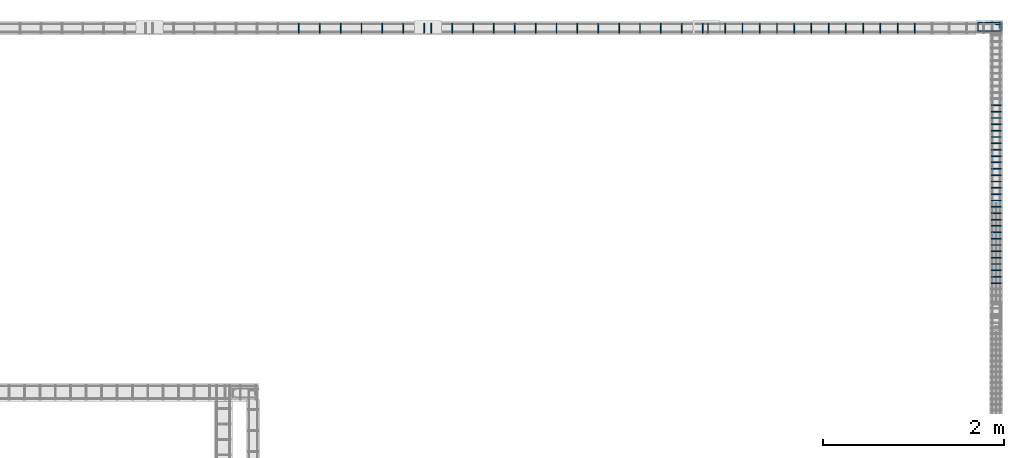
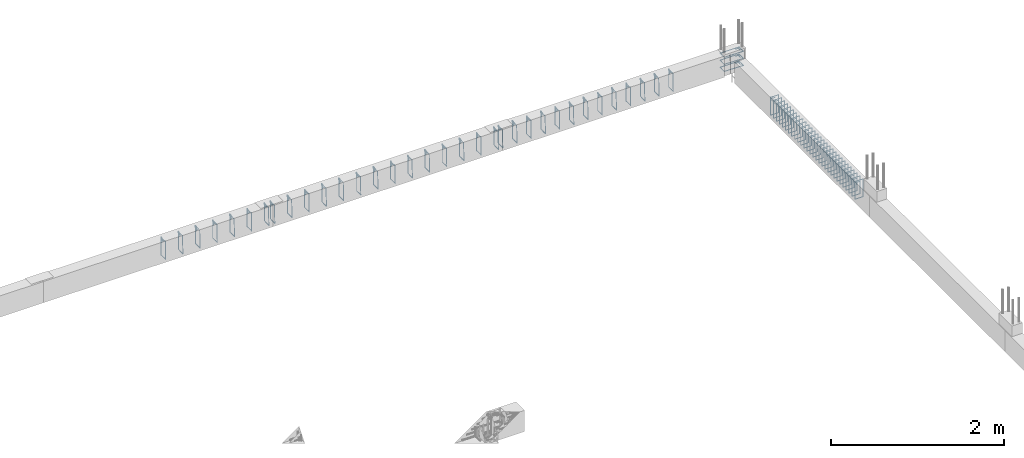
# One storey, part 149 of 150: 66 reinforcing bars.
"""IFC4 building model written with IfcOpenShell, lengths in centimetres."""

from ifc_helpers import new_model, entity, si_unit, derived_unit, frame, origin_with_axes, place, context, project, spatial, source, transform, mapped, element, save


model = new_model("IFC4")

# Units and contexts
model_context = context("Model", 3, precision=1e-05, world=origin_with_axes(), identifier="Body")
ifc_project = project(units=[si_unit("LENGTHUNIT", "METRE", prefix="CENTI"), si_unit("VOLUMEUNIT", "CUBIC_METRE"), si_unit("AREAUNIT", "SQUARE_METRE"), si_unit("POWERUNIT", "WATT"), si_unit("LUMINOUSFLUXUNIT", "LUMEN"), si_unit("ELECTRICCURRENTUNIT", "AMPERE"), si_unit("PRESSUREUNIT", "PASCAL", prefix="KILO"), si_unit("MASSUNIT", "GRAM", prefix="KILO"), si_unit("PLANEANGLEUNIT", "RADIAN"), derived_unit("VOLUMETRICFLOWRATEUNIT", [(si_unit("LENGTHUNIT", "METRE"), 3), (si_unit("TIMEUNIT", "SECOND"), -1)])], contexts=[model_context])

# Site, building, storey
site_placement = place(None, frame((-4000.0, 0.0, 0.0), z_axis=(0.0, 0.0, 1.0), x_axis=(1.0, 0.0, 0.0)))
site = spatial("IfcSite", under=ifc_project, at=site_placement, Name="PADRÃO")
building_placement = place(site_placement, frame((0.0, 0.0, -14.0)))
building = spatial("IfcBuilding", under=site, at=building_placement, Name="CRECHE PRÉ-ESCOLA TIPO 2")
placement = place(building_placement, origin_with_axes())
storey_placement = place(placement, frame((0.0, 0.0, 30.0), z_axis=(0.0, 0.0, 1.0), x_axis=(1.0, 0.0, 0.0)))
storey = spatial("IfcBuildingStorey", under=building, at=storey_placement, Name="VIGA BALDRAME", CompositionType="ELEMENT", Elevation=16.0)

# Reinforcing bars
shared_shape_1 = source(origin_with_axes(), model_context, "Body", "AdvancedSweptSolid", [
    entity("IfcSweptDiskSolid", entity("IfcCompositeCurve", [entity("IfcCompositeCurveSegment", "CONTINUOUS", True, entity("IfcPolyline", [entity("IfcCartesianPoint", [4.25, 21.75, 0.0]), entity("IfcCartesianPoint", [4.25, 27.75, 0.0])])), entity("IfcCompositeCurveSegment", "CONTINUOUS", True, entity("IfcPolyline", [entity("IfcCartesianPoint", [4.25, 27.75, 0.0]), entity("IfcCartesianPoint", [2.25, 27.75, 0.0])])), entity("IfcCompositeCurveSegment", "CONTINUOUS", True, entity("IfcPolyline", [entity("IfcCartesianPoint", [2.25, 27.75, 0.0]), entity("IfcCartesianPoint", [2.25, 2.25, 0.0])])), entity("IfcCompositeCurveSegment", "CONTINUOUS", True, entity("IfcPolyline", [entity("IfcCartesianPoint", [2.25, 2.25, 0.0]), entity("IfcCartesianPoint", [11.75, 2.25, 0.0])])), entity("IfcCompositeCurveSegment", "CONTINUOUS", True, entity("IfcPolyline", [entity("IfcCartesianPoint", [11.75, 2.25, 0.0]), entity("IfcCartesianPoint", [11.75, 27.75, -0.5])])), entity("IfcCompositeCurveSegment", "CONTINUOUS", True, entity("IfcPolyline", [entity("IfcCartesianPoint", [11.75, 27.75, -0.5]), entity("IfcCartesianPoint", [2.25, 27.75, -0.5])])), entity("IfcCompositeCurveSegment", "CONTINUOUS", True, entity("IfcPolyline", [entity("IfcCartesianPoint", [2.25, 27.75, -0.5]), entity("IfcCartesianPoint", [2.25, 25.75, -0.5])])), entity("IfcCompositeCurveSegment", "CONTINUOUS", True, entity("IfcPolyline", [entity("IfcCartesianPoint", [2.25, 25.75, -0.5]), entity("IfcCartesianPoint", [8.25, 25.75, -0.5])]))], False), 0.25),
])
for number, where, z_axis, x_axis, name in (
    (1, (3969.0, 4495.0, -15.0), (0.0, 0.0, 1.0), (0.0, -1.0, 0.0), "P14 - Estribo"),
    (2, (3969.0, 4495.0, -25.0), (0.0, 0.0, 1.0), (0.0, -1.0, 0.0), "P14 - Estribo"),
    (3, (3969.0, 4495.0, -5.0), (0.0, 0.0, 1.0), (0.0, -1.0, 0.0), "P14 - Estribo"),
):
    element("IfcReinforcingBar", number, at=place(storey_placement, frame(where, z_axis=z_axis, x_axis=x_axis)), inside=storey, Name=name, BarLength=0.0, CrossSectionArea=1.9634954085e-05, NominalDiameter=0.5, PredefinedType="MAIN", context=model_context, shape_type="MappedRepresentation", body=[
        mapped(shared_shape_1, transform((0.0, 0.0, 0.0), scale=1.0)),
    ])
shared_shape_2 = source(origin_with_axes(), model_context, "Body", "AdvancedSweptSolid", [
    entity("IfcSweptDiskSolid", entity("IfcCompositeCurve", [entity("IfcCompositeCurveSegment", "CONTINUOUS", True, entity("IfcPolyline", [entity("IfcCartesianPoint", [2.0, -6.0, 0.0]), entity("IfcCartesianPoint", [2.0, 0.0, 0.0])])), entity("IfcCompositeCurveSegment", "CONTINUOUS", True, entity("IfcPolyline", [entity("IfcCartesianPoint", [2.0, 0.0, 0.0]), entity("IfcCartesianPoint", [0.0, 0.0, 0.0])])), entity("IfcCompositeCurveSegment", "CONTINUOUS", True, entity("IfcPolyline", [entity("IfcCartesianPoint", [0.0, 0.0, 0.0]), entity("IfcCartesianPoint", [0.0, -25.5, 0.0])])), entity("IfcCompositeCurveSegment", "CONTINUOUS", True, entity("IfcPolyline", [entity("IfcCartesianPoint", [0.0, -25.5, 0.0]), entity("IfcCartesianPoint", [10.5, -25.5, 0.0])])), entity("IfcCompositeCurveSegment", "CONTINUOUS", True, entity("IfcPolyline", [entity("IfcCartesianPoint", [10.5, -25.5, 0.0]), entity("IfcCartesianPoint", [10.5, 0.0, 0.5])])), entity("IfcCompositeCurveSegment", "CONTINUOUS", True, entity("IfcPolyline", [entity("IfcCartesianPoint", [10.5, 0.0, 0.5]), entity("IfcCartesianPoint", [0.0, 0.0, 0.5])])), entity("IfcCompositeCurveSegment", "CONTINUOUS", True, entity("IfcPolyline", [entity("IfcCartesianPoint", [0.0, 0.0, 0.5]), entity("IfcCartesianPoint", [0.0, -2.0, 0.5])])), entity("IfcCompositeCurveSegment", "CONTINUOUS", True, entity("IfcPolyline", [entity("IfcCartesianPoint", [0.0, -2.0, 0.5]), entity("IfcCartesianPoint", [6.0, -2.0, 0.5])]))], False), 0.25),
])
for number, where, z_axis, x_axis, name in (
    (4, (3361.0, 4491.75, -2.25), (-1.0, 0.0, 0.0), (0.0, -1.0, 0.0), "V101 - Estribo"),
    (5, (3338.0, 4491.75, -2.25), (-1.0, 0.0, 0.0), (0.0, -1.0, 0.0), "V101 - Estribo"),
    (6, (3315.0, 4491.75, -2.25), (-1.0, 0.0, 0.0), (0.0, -1.0, 0.0), "V101 - Estribo"),
    (7, (3292.0, 4491.75, -2.25), (-1.0, 0.0, 0.0), (0.0, -1.0, 0.0), "V101 - Estribo"),
    (8, (3269.0, 4491.75, -2.25), (-1.0, 0.0, 0.0), (0.0, -1.0, 0.0), "V101 - Estribo"),
    (9, (3246.0, 4491.75, -2.25), (-1.0, 0.0, 0.0), (0.0, -1.0, 0.0), "V101 - Estribo"),
    (10, (3223.0, 4491.75, -2.25), (-1.0, 0.0, 0.0), (0.0, -1.0, 0.0), "V101 - Estribo"),
):
    element("IfcReinforcingBar", number, at=place(storey_placement, frame(where, z_axis=z_axis, x_axis=x_axis)), inside=storey, Name=name, BarLength=0.0, CrossSectionArea=1.9634954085e-05, NominalDiameter=0.5, PredefinedType="MAIN", context=model_context, shape_type="MappedRepresentation", body=[
        mapped(shared_shape_2, transform((0.0, 0.0, 0.0), scale=1.0)),
    ])
shared_shape_3 = source(origin_with_axes(), model_context, "Body", "AdvancedSweptSolid", [
    entity("IfcSweptDiskSolid", entity("IfcCompositeCurve", [entity("IfcCompositeCurveSegment", "CONTINUOUS", True, entity("IfcPolyline", [entity("IfcCartesianPoint", [2.0, -6.0, 0.0]), entity("IfcCartesianPoint", [2.0, 0.0, 0.0])])), entity("IfcCompositeCurveSegment", "CONTINUOUS", True, entity("IfcPolyline", [entity("IfcCartesianPoint", [2.0, 0.0, 0.0]), entity("IfcCartesianPoint", [0.0, 0.0, 0.0])])), entity("IfcCompositeCurveSegment", "CONTINUOUS", True, entity("IfcPolyline", [entity("IfcCartesianPoint", [0.0, 0.0, 0.0]), entity("IfcCartesianPoint", [0.0, -25.5, 0.0])])), entity("IfcCompositeCurveSegment", "CONTINUOUS", True, entity("IfcPolyline", [entity("IfcCartesianPoint", [0.0, -25.5, 0.0]), entity("IfcCartesianPoint", [10.5, -25.5, 0.0])])), entity("IfcCompositeCurveSegment", "CONTINUOUS", True, entity("IfcPolyline", [entity("IfcCartesianPoint", [10.5, -25.5, 0.0]), entity("IfcCartesianPoint", [10.5, 0.0, 0.5])])), entity("IfcCompositeCurveSegment", "CONTINUOUS", True, entity("IfcPolyline", [entity("IfcCartesianPoint", [10.5, 0.0, 0.5]), entity("IfcCartesianPoint", [0.0, 0.0, 0.5])])), entity("IfcCompositeCurveSegment", "CONTINUOUS", True, entity("IfcPolyline", [entity("IfcCartesianPoint", [0.0, 0.0, 0.5]), entity("IfcCartesianPoint", [0.0, -2.0, 0.5])])), entity("IfcCompositeCurveSegment", "CONTINUOUS", True, entity("IfcPolyline", [entity("IfcCartesianPoint", [0.0, -2.0, 0.5]), entity("IfcCartesianPoint", [6.0, -2.0, 0.5])]))], False), 0.25),
])
for number, where, z_axis, x_axis, name in (
    (11, (3530.0, 4491.75, -2.25), (-1.0, 0.0, 0.0), (0.0, -1.0, 0.0), "V101 - Estribo"),
    (12, (3668.0, 4491.75, -2.25), (-1.0, 0.0, 0.0), (0.0, -1.0, 0.0), "V101 - Estribo"),
    (13, (3645.0, 4491.75, -2.25), (-1.0, 0.0, 0.0), (0.0, -1.0, 0.0), "V101 - Estribo"),
    (14, (3622.0, 4491.75, -2.25), (-1.0, 0.0, 0.0), (0.0, -1.0, 0.0), "V101 - Estribo"),
    (15, (3599.0, 4491.75, -2.25), (-1.0, 0.0, 0.0), (0.0, -1.0, 0.0), "V101 - Estribo"),
    (16, (3576.0, 4491.75, -2.25), (-1.0, 0.0, 0.0), (0.0, -1.0, 0.0), "V101 - Estribo"),
    (17, (3553.0, 4491.75, -2.25), (-1.0, 0.0, 0.0), (0.0, -1.0, 0.0), "V101 - Estribo"),
    (18, (3507.0, 4491.75, -2.25), (-1.0, 0.0, 0.0), (0.0, -1.0, 0.0), "V101 - Estribo"),
    (19, (3484.0, 4491.75, -2.25), (-1.0, 0.0, 0.0), (0.0, -1.0, 0.0), "V101 - Estribo"),
    (20, (3461.0, 4491.75, -2.25), (-1.0, 0.0, 0.0), (0.0, -1.0, 0.0), "V101 - Estribo"),
    (21, (3438.0, 4491.75, -2.25), (-1.0, 0.0, 0.0), (0.0, -1.0, 0.0), "V101 - Estribo"),
    (22, (3415.0, 4491.75, -2.25), (-1.0, 0.0, 0.0), (0.0, -1.0, 0.0), "V101 - Estribo"),
    (23, (3392.0, 4491.75, -2.25), (-1.0, 0.0, 0.0), (0.0, -1.0, 0.0), "V101 - Estribo"),
    (24, (3369.0, 4491.75, -2.25), (-1.0, 0.0, 0.0), (0.0, -1.0, 0.0), "V101 - Estribo"),
):
    element("IfcReinforcingBar", number, at=place(storey_placement, frame(where, z_axis=z_axis, x_axis=x_axis)), inside=storey, Name=name, BarLength=0.0, CrossSectionArea=1.9634954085e-05, NominalDiameter=0.5, PredefinedType="MAIN", context=model_context, shape_type="MappedRepresentation", body=[
        mapped(shared_shape_3, transform((0.0, 0.0, 0.0), scale=1.0)),
    ])
shared_shape_4 = source(origin_with_axes(), model_context, "Body", "AdvancedSweptSolid", [
    entity("IfcSweptDiskSolid", entity("IfcCompositeCurve", [entity("IfcCompositeCurveSegment", "CONTINUOUS", True, entity("IfcPolyline", [entity("IfcCartesianPoint", [2.0, -6.0, 0.0]), entity("IfcCartesianPoint", [2.0, 0.0, 0.0])])), entity("IfcCompositeCurveSegment", "CONTINUOUS", True, entity("IfcPolyline", [entity("IfcCartesianPoint", [2.0, 0.0, 0.0]), entity("IfcCartesianPoint", [0.0, 0.0, 0.0])])), entity("IfcCompositeCurveSegment", "CONTINUOUS", True, entity("IfcPolyline", [entity("IfcCartesianPoint", [0.0, 0.0, 0.0]), entity("IfcCartesianPoint", [0.0, -25.5, 0.0])])), entity("IfcCompositeCurveSegment", "CONTINUOUS", True, entity("IfcPolyline", [entity("IfcCartesianPoint", [0.0, -25.5, 0.0]), entity("IfcCartesianPoint", [10.5, -25.5, 0.0])])), entity("IfcCompositeCurveSegment", "CONTINUOUS", True, entity("IfcPolyline", [entity("IfcCartesianPoint", [10.5, -25.5, 0.0]), entity("IfcCartesianPoint", [10.5, 0.0, 0.5])])), entity("IfcCompositeCurveSegment", "CONTINUOUS", True, entity("IfcPolyline", [entity("IfcCartesianPoint", [10.5, 0.0, 0.5]), entity("IfcCartesianPoint", [0.0, 0.0, 0.5])])), entity("IfcCompositeCurveSegment", "CONTINUOUS", True, entity("IfcPolyline", [entity("IfcCartesianPoint", [0.0, 0.0, 0.5]), entity("IfcCartesianPoint", [0.0, -2.0, 0.5])])), entity("IfcCompositeCurveSegment", "CONTINUOUS", True, entity("IfcPolyline", [entity("IfcCartesianPoint", [0.0, -2.0, 0.5]), entity("IfcCartesianPoint", [6.0, -2.0, 0.5])]))], False), 0.25),
])
for number, where, z_axis, x_axis, name in (
    (25, (3902.0, 4491.75, -2.25), (-1.0, 0.0, 0.0), (0.0, -1.0, 0.0), "V101 - Estribo"),
    (26, (3883.0, 4491.75, -2.25), (-1.0, 0.0, 0.0), (0.0, -1.0, 0.0), "V101 - Estribo"),
    (27, (3864.0, 4491.75, -2.25), (-1.0, 0.0, 0.0), (0.0, -1.0, 0.0), "V101 - Estribo"),
    (28, (3845.0, 4491.75, -2.25), (-1.0, 0.0, 0.0), (0.0, -1.0, 0.0), "V101 - Estribo"),
    (29, (3826.0, 4491.75, -2.25), (-1.0, 0.0, 0.0), (0.0, -1.0, 0.0), "V101 - Estribo"),
    (30, (3807.0, 4491.75, -2.25), (-1.0, 0.0, 0.0), (0.0, -1.0, 0.0), "V101 - Estribo"),
    (31, (3788.0, 4491.75, -2.25), (-1.0, 0.0, 0.0), (0.0, -1.0, 0.0), "V101 - Estribo"),
    (32, (3769.0, 4491.75, -2.25), (-1.0, 0.0, 0.0), (0.0, -1.0, 0.0), "V101 - Estribo"),
    (33, (3750.0, 4491.75, -2.25), (-1.0, 0.0, 0.0), (0.0, -1.0, 0.0), "V101 - Estribo"),
    (34, (3731.0, 4491.75, -2.25), (-1.0, 0.0, 0.0), (0.0, -1.0, 0.0), "V101 - Estribo"),
    (35, (3712.0, 4491.75, -2.25), (-1.0, 0.0, 0.0), (0.0, -1.0, 0.0), "V101 - Estribo"),
    (36, (3693.0, 4491.75, -2.25), (-1.0, 0.0, 0.0), (0.0, -1.0, 0.0), "V101 - Estribo"),
    (37, (3674.0, 4491.75, -2.25), (-1.0, 0.0, 0.0), (0.0, -1.0, 0.0), "V101 - Estribo"),
):
    element("IfcReinforcingBar", number, at=place(storey_placement, frame(where, z_axis=z_axis, x_axis=x_axis)), inside=storey, Name=name, BarLength=0.0, CrossSectionArea=1.9634954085e-05, NominalDiameter=0.5, PredefinedType="MAIN", context=model_context, shape_type="MappedRepresentation", body=[
        mapped(shared_shape_4, transform((0.0, 0.0, 0.0), scale=1.0)),
    ])
shared_shape_5 = source(origin_with_axes(), model_context, "Body", "AdvancedSweptSolid", [
    entity("IfcSweptDiskSolid", entity("IfcCompositeCurve", [entity("IfcCompositeCurveSegment", "CONTINUOUS", True, entity("IfcPolyline", [entity("IfcCartesianPoint", [2.0, -6.0, 0.0]), entity("IfcCartesianPoint", [2.0, 0.0, 0.0])])), entity("IfcCompositeCurveSegment", "CONTINUOUS", True, entity("IfcPolyline", [entity("IfcCartesianPoint", [2.0, 0.0, 0.0]), entity("IfcCartesianPoint", [0.0, 0.0, 0.0])])), entity("IfcCompositeCurveSegment", "CONTINUOUS", True, entity("IfcPolyline", [entity("IfcCartesianPoint", [0.0, 0.0, 0.0]), entity("IfcCartesianPoint", [0.0, -25.5, 0.0])])), entity("IfcCompositeCurveSegment", "CONTINUOUS", True, entity("IfcPolyline", [entity("IfcCartesianPoint", [0.0, -25.5, 0.0]), entity("IfcCartesianPoint", [10.5, -25.5, 0.0])])), entity("IfcCompositeCurveSegment", "CONTINUOUS", True, entity("IfcPolyline", [entity("IfcCartesianPoint", [10.5, -25.5, 0.0]), entity("IfcCartesianPoint", [10.5, 0.0, 0.5])])), entity("IfcCompositeCurveSegment", "CONTINUOUS", True, entity("IfcPolyline", [entity("IfcCartesianPoint", [10.5, 0.0, 0.5]), entity("IfcCartesianPoint", [0.0, 0.0, 0.5])])), entity("IfcCompositeCurveSegment", "CONTINUOUS", True, entity("IfcPolyline", [entity("IfcCartesianPoint", [0.0, 0.0, 0.5]), entity("IfcCartesianPoint", [0.0, -2.0, 0.5])])), entity("IfcCompositeCurveSegment", "CONTINUOUS", True, entity("IfcPolyline", [entity("IfcCartesianPoint", [0.0, -2.0, 0.5]), entity("IfcCartesianPoint", [6.0, -2.0, 0.5])]))], False), 0.25),
])
for number, where, z_axis, x_axis, name in (
    (38, (3986.25, 4268.75, -17.25), (0.0, -1.0, 0.0), (1.0, 0.0, 0.0), "V230 - Estribo"),
    (39, (3986.25, 4261.75, -17.25), (0.0, -1.0, 0.0), (1.0, 0.0, 0.0), "V230 - Estribo"),
    (40, (3986.25, 4254.75, -17.25), (0.0, -1.0, 0.0), (1.0, 0.0, 0.0), "V230 - Estribo"),
    (41, (3986.25, 4247.75, -17.25), (0.0, -1.0, 0.0), (1.0, 0.0, 0.0), "V230 - Estribo"),
    (42, (3986.25, 4240.75, -17.25), (0.0, -1.0, 0.0), (1.0, 0.0, 0.0), "V230 - Estribo"),
    (43, (3986.25, 4233.75, -17.25), (0.0, -1.0, 0.0), (1.0, 0.0, 0.0), "V230 - Estribo"),
    (44, (3986.25, 4226.75, -17.25), (0.0, -1.0, 0.0), (1.0, 0.0, 0.0), "V230 - Estribo"),
    (45, (3986.25, 4219.75, -17.25), (0.0, -1.0, 0.0), (1.0, 0.0, 0.0), "V230 - Estribo"),
    (46, (3986.25, 4212.75, -17.25), (0.0, -1.0, 0.0), (1.0, 0.0, 0.0), "V230 - Estribo"),
    (47, (3986.25, 4205.75, -17.25), (0.0, -1.0, 0.0), (1.0, 0.0, 0.0), "V230 - Estribo"),
    (48, (3986.25, 4401.75, -17.25), (0.0, -1.0, 0.0), (1.0, 0.0, 0.0), "V230 - Estribo"),
    (49, (3986.25, 4394.75, -17.25), (0.0, -1.0, 0.0), (1.0, 0.0, 0.0), "V230 - Estribo"),
    (50, (3986.25, 4387.75, -17.25), (0.0, -1.0, 0.0), (1.0, 0.0, 0.0), "V230 - Estribo"),
    (51, (3986.25, 4380.75, -17.25), (0.0, -1.0, 0.0), (1.0, 0.0, 0.0), "V230 - Estribo"),
    (52, (3986.25, 4373.75, -17.25), (0.0, -1.0, 0.0), (1.0, 0.0, 0.0), "V230 - Estribo"),
    (53, (3986.25, 4366.75, -17.25), (0.0, -1.0, 0.0), (1.0, 0.0, 0.0), "V230 - Estribo"),
    (54, (3986.25, 4359.75, -17.25), (0.0, -1.0, 0.0), (1.0, 0.0, 0.0), "V230 - Estribo"),
    (55, (3986.25, 4352.75, -17.25), (0.0, -1.0, 0.0), (1.0, 0.0, 0.0), "V230 - Estribo"),
    (56, (3986.25, 4345.75, -17.25), (0.0, -1.0, 0.0), (1.0, 0.0, 0.0), "V230 - Estribo"),
    (57, (3986.25, 4338.75, -17.25), (0.0, -1.0, 0.0), (1.0, 0.0, 0.0), "V230 - Estribo"),
    (58, (3986.25, 4331.75, -17.25), (0.0, -1.0, 0.0), (1.0, 0.0, 0.0), "V230 - Estribo"),
    (59, (3986.25, 4324.75, -17.25), (0.0, -1.0, 0.0), (1.0, 0.0, 0.0), "V230 - Estribo"),
    (60, (3986.25, 4317.75, -17.25), (0.0, -1.0, 0.0), (1.0, 0.0, 0.0), "V230 - Estribo"),
    (61, (3986.25, 4310.75, -17.25), (0.0, -1.0, 0.0), (1.0, 0.0, 0.0), "V230 - Estribo"),
    (62, (3986.25, 4303.75, -17.25), (0.0, -1.0, 0.0), (1.0, 0.0, 0.0), "V230 - Estribo"),
    (63, (3986.25, 4296.75, -17.25), (0.0, -1.0, 0.0), (1.0, 0.0, 0.0), "V230 - Estribo"),
    (64, (3986.25, 4289.75, -17.25), (0.0, -1.0, 0.0), (1.0, 0.0, 0.0), "V230 - Estribo"),
    (65, (3986.25, 4282.75, -17.25), (0.0, -1.0, 0.0), (1.0, 0.0, 0.0), "V230 - Estribo"),
    (66, (3986.25, 4275.75, -17.25), (0.0, -1.0, 0.0), (1.0, 0.0, 0.0), "V230 - Estribo"),
):
    element("IfcReinforcingBar", number, at=place(storey_placement, frame(where, z_axis=z_axis, x_axis=x_axis)), inside=storey, Name=name, BarLength=0.0, CrossSectionArea=1.9634954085e-05, NominalDiameter=0.5, PredefinedType="MAIN", context=model_context, shape_type="MappedRepresentation", body=[
        mapped(shared_shape_5, transform((0.0, 0.0, 0.0), scale=1.0)),
    ])

save(model, "model.ifc")
